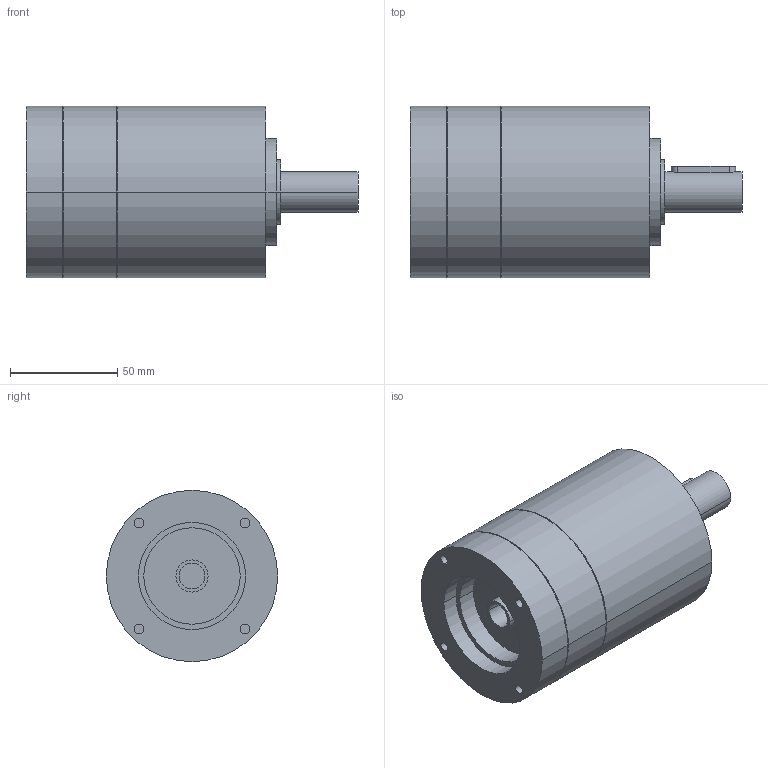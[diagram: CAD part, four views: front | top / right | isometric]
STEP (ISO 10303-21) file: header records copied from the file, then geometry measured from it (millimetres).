
FILE_DESCRIPTION(('CoCreate Modeling STEP Export'),'2;1');
FILE_NAME('GPR100_ig-3-4-5-6_19_B14_12.7_P15.stp','2014-08-26T10:06:54',(''),(''),'CoCreate Modeling STEP processor for AP214 (Solid Model)','CoCreate Modeling 16.00C 25-Feb-2009 (C) Parametric Technology GmbH','');
FILE_SCHEMA(('AUTOMOTIVE_DESIGN { 1 0 10303 214 1 1 1 1 }'));
Length unit declared in the file: millimetre
Products named in the file (2): GPR100_ig-3-4-5-6_19_B14_12.7_P15
Assembly tree (1 placements, depth 2):
  GPR100_ig-3-4-5-6_19_B14_12.7_P15
    GPR100_ig-3-4-5-6_19_B14_12.7_P15
Bounding box: 155 x 80 x 80 mm (x, y, z)
Volume: 549672.6 mm3; surface area: 48263.2 mm2
Topology: 1 solids, 1 shells, 80 faces, 201 edges, 143 vertices
Faces by surface type: cylinder 48, plane 26, cone 6
Entity records: 2026 total; most frequent: ORIENTED_EDGE 398, CARTESIAN_POINT 369, DIRECTION 264, EDGE_CURVE 199, VERTEX_POINT 143, AXIS2_PLACEMENT_3D 102, EDGE_LOOP 102, FACE_OUTER_BOUND 80
